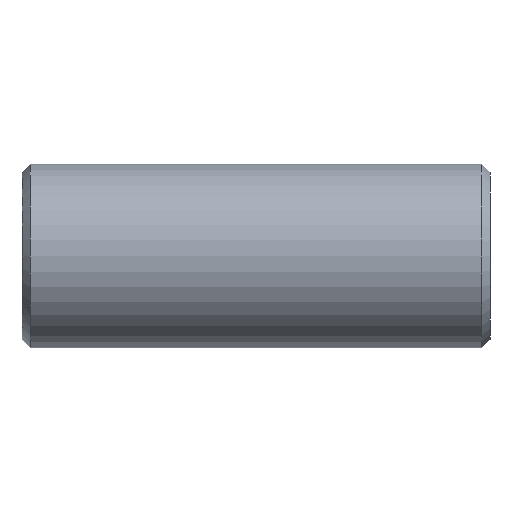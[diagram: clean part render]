
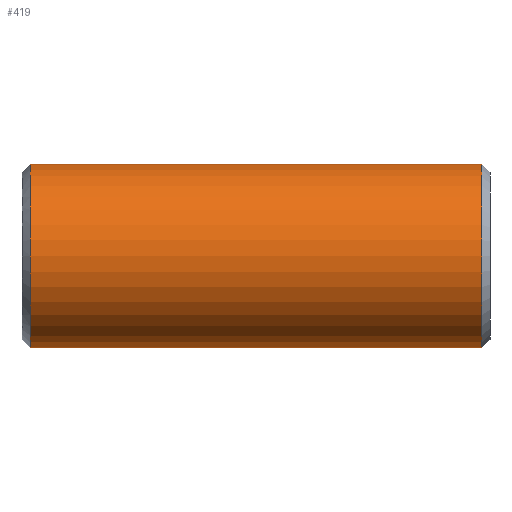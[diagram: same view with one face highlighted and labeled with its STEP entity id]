
A CAD part, front view. The second image highlights one B-rep face of the part: STEP entity #419.
In plain terms, the highlighted cylindrical face has radius 11 mm (diameter 22 mm), a partial arc.
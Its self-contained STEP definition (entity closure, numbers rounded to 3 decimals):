
#231=CARTESIAN_POINT('Vertex',(1.,0.,-11.)) ;
#238=CARTESIAN_POINT('Vertex',(1.,0.,11.)) ;
#267=CARTESIAN_POINT('Axis2P3D Location',(1.,0.,0.)) ;
#271=CARTESIAN_POINT('Vertex',(1.,-11.,0.)) ;
#274=CARTESIAN_POINT('Axis2P3D Location',(1.,0.,0.)) ;
#359=CARTESIAN_POINT('Line Origine',(56.,0.,11.)) ;
#363=CARTESIAN_POINT('Vertex',(55.,0.,11.)) ;
#377=CARTESIAN_POINT('Vertex',(55.,0.,-11.)) ;
#380=CARTESIAN_POINT('Line Origine',(56.,0.,-11.)) ;
#394=CARTESIAN_POINT('Axis2P3D Location',(56.,0.,0.)) ;
#399=CARTESIAN_POINT('Axis2P3D Location',(55.,0.,0.)) ;
#403=CARTESIAN_POINT('Vertex',(55.,-11.,0.)) ;
#406=CARTESIAN_POINT('Axis2P3D Location',(55.,0.,0.)) ;
#268=DIRECTION('Axis2P3D Direction',(1.,0.,-0.)) ;
#275=DIRECTION('Axis2P3D Direction',(1.,0.,-0.)) ;
#360=DIRECTION('Vector Direction',(-1.,0.,0.)) ;
#381=DIRECTION('Vector Direction',(-1.,0.,0.)) ;
#395=DIRECTION('Axis2P3D Direction',(-1.,-0.,-0.)) ;
#396=DIRECTION('Axis2P3D XDirection',(0.,0.,-1.)) ;
#400=DIRECTION('Axis2P3D Direction',(-1.,-0.,-0.)) ;
#407=DIRECTION('Axis2P3D Direction',(-1.,-0.,-0.)) ;
#269=AXIS2_PLACEMENT_3D('Circle Axis2P3D',#267,#268,$) ;
#276=AXIS2_PLACEMENT_3D('Circle Axis2P3D',#274,#275,$) ;
#397=AXIS2_PLACEMENT_3D('Cylinder Axis2P3D',#394,#395,#396) ;
#401=AXIS2_PLACEMENT_3D('Circle Axis2P3D',#399,#400,$) ;
#408=AXIS2_PLACEMENT_3D('Circle Axis2P3D',#406,#407,$) ;
#412=ORIENTED_EDGE('',*,*,#384,.T.) ;
#413=ORIENTED_EDGE('',*,*,#405,.F.) ;
#414=ORIENTED_EDGE('',*,*,#410,.F.) ;
#415=ORIENTED_EDGE('',*,*,#365,.T.) ;
#416=ORIENTED_EDGE('',*,*,#278,.T.) ;
#417=ORIENTED_EDGE('',*,*,#273,.T.) ;
#361=VECTOR('Line Direction',#360,1.) ;
#382=VECTOR('Line Direction',#381,1.) ;
#419=ADVANCED_FACE('352-16X56',(#418),#398,.T.) ;
#270=CIRCLE('generated circle',#269,11.) ;
#277=CIRCLE('generated circle',#276,11.) ;
#402=CIRCLE('generated circle',#401,11.) ;
#409=CIRCLE('generated circle',#408,11.) ;
#398=CYLINDRICAL_SURFACE('generated cylinder',#397,11.) ;
#273=EDGE_CURVE('',#272,#232,#270,.T.) ;
#278=EDGE_CURVE('',#239,#272,#277,.T.) ;
#365=EDGE_CURVE('',#364,#239,#362,.T.) ;
#384=EDGE_CURVE('',#232,#378,#383,.F.) ;
#405=EDGE_CURVE('',#404,#378,#402,.F.) ;
#410=EDGE_CURVE('',#364,#404,#409,.F.) ;
#411=EDGE_LOOP('',(#412,#413,#414,#415,#416,#417)) ;
#418=FACE_OUTER_BOUND('',#411,.T.) ;
#362=LINE('Line',#359,#361) ;
#383=LINE('Line',#380,#382) ;
#232=VERTEX_POINT('',#231) ;
#239=VERTEX_POINT('',#238) ;
#272=VERTEX_POINT('',#271) ;
#364=VERTEX_POINT('',#363) ;
#378=VERTEX_POINT('',#377) ;
#404=VERTEX_POINT('',#403) ;
